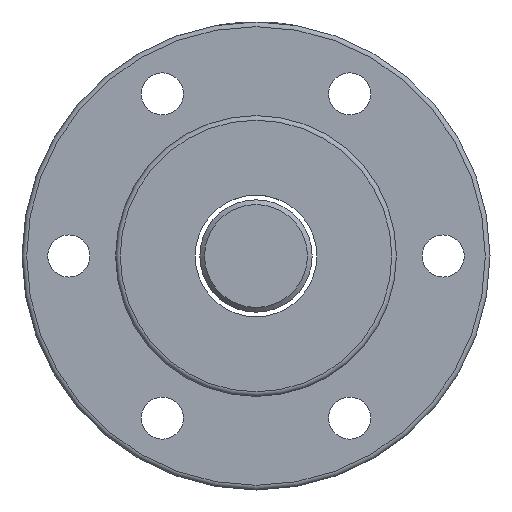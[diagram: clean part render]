
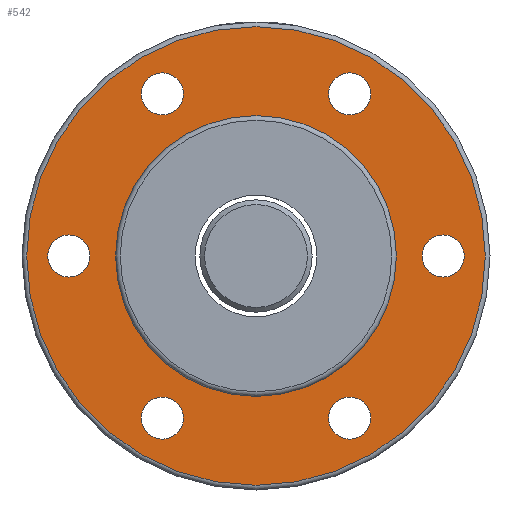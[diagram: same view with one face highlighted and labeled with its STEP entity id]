
A CAD part, left-side view. The second image highlights one B-rep face of the part: STEP entity #542.
In plain terms, the highlighted planar face has unit normal (-1, 0, 0).
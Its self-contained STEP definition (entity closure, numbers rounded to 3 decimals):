
#92=PLANE('',#644);
#156=ORIENTED_EDGE('',*,*,#231,.F.);
#157=ORIENTED_EDGE('',*,*,#239,.T.);
#158=ORIENTED_EDGE('',*,*,#229,.F.);
#159=ORIENTED_EDGE('',*,*,#225,.F.);
#160=ORIENTED_EDGE('',*,*,#221,.F.);
#161=ORIENTED_EDGE('',*,*,#217,.F.);
#162=ORIENTED_EDGE('',*,*,#213,.F.);
#163=ORIENTED_EDGE('',*,*,#209,.F.);
#209=EDGE_CURVE('',#261,#261,#308,.T.);
#213=EDGE_CURVE('',#265,#265,#312,.T.);
#217=EDGE_CURVE('',#269,#269,#316,.T.);
#221=EDGE_CURVE('',#273,#273,#320,.T.);
#225=EDGE_CURVE('',#277,#277,#324,.T.);
#229=EDGE_CURVE('',#281,#281,#328,.T.);
#231=EDGE_CURVE('',#283,#283,#330,.T.);
#239=EDGE_CURVE('',#291,#291,#334,.T.);
#261=VERTEX_POINT('',#854);
#265=VERTEX_POINT('',#865);
#269=VERTEX_POINT('',#876);
#273=VERTEX_POINT('',#887);
#277=VERTEX_POINT('',#898);
#281=VERTEX_POINT('',#909);
#283=VERTEX_POINT('',#914);
#291=VERTEX_POINT('',#952);
#308=CIRCLE('',#597,2.25);
#312=CIRCLE('',#604,2.25);
#316=CIRCLE('',#611,2.25);
#320=CIRCLE('',#618,2.25);
#324=CIRCLE('',#625,2.25);
#328=CIRCLE('',#632,2.25);
#330=CIRCLE('',#635,24.5);
#334=CIRCLE('',#643,15.);
#397=EDGE_LOOP('',(#156));
#398=EDGE_LOOP('',(#157));
#399=EDGE_LOOP('',(#158));
#400=EDGE_LOOP('',(#159));
#401=EDGE_LOOP('',(#160));
#402=EDGE_LOOP('',(#161));
#403=EDGE_LOOP('',(#162));
#404=EDGE_LOOP('',(#163));
#482=FACE_BOUND('',#397,.T.);
#483=FACE_BOUND('',#398,.T.);
#484=FACE_BOUND('',#399,.T.);
#485=FACE_BOUND('',#400,.T.);
#486=FACE_BOUND('',#401,.T.);
#487=FACE_BOUND('',#402,.T.);
#488=FACE_BOUND('',#403,.T.);
#489=FACE_BOUND('',#404,.T.);
#542=ADVANCED_FACE('',(#482,#483,#484,#485,#486,#487,#488,#489),#92,.T.);
#597=AXIS2_PLACEMENT_3D('',#853,#699,#700);
#604=AXIS2_PLACEMENT_3D('',#864,#713,#714);
#611=AXIS2_PLACEMENT_3D('',#875,#727,#728);
#618=AXIS2_PLACEMENT_3D('',#886,#741,#742);
#625=AXIS2_PLACEMENT_3D('',#897,#755,#756);
#632=AXIS2_PLACEMENT_3D('',#908,#769,#770);
#635=AXIS2_PLACEMENT_3D('',#913,#775,#776);
#643=AXIS2_PLACEMENT_3D('',#951,#791,#792);
#644=AXIS2_PLACEMENT_3D('',#953,#793,#794);
#699=DIRECTION('',(-1.,0.,0.));
#700=DIRECTION('',(0.,0.,1.));
#713=DIRECTION('',(-1.,0.,0.));
#714=DIRECTION('',(0.,0.,1.));
#727=DIRECTION('',(-1.,0.,0.));
#728=DIRECTION('',(0.,0.,1.));
#741=DIRECTION('',(-1.,0.,0.));
#742=DIRECTION('',(0.,0.,1.));
#755=DIRECTION('',(-1.,0.,0.));
#756=DIRECTION('',(0.,0.,1.));
#769=DIRECTION('',(-1.,0.,0.));
#770=DIRECTION('',(0.,0.,1.));
#775=DIRECTION('',(1.,0.,0.));
#776=DIRECTION('',(0.,0.,-1.));
#791=DIRECTION('',(1.,0.,0.));
#792=DIRECTION('',(0.,0.,-1.));
#793=DIRECTION('',(-1.,0.,0.));
#794=DIRECTION('',(0.,0.,1.));
#853=CARTESIAN_POINT('',(-23.5,20.,0.));
#854=CARTESIAN_POINT('',(-23.5,20.,2.25));
#864=CARTESIAN_POINT('',(-23.5,-20.,0.));
#865=CARTESIAN_POINT('',(-23.5,-20.,2.25));
#875=CARTESIAN_POINT('',(-23.5,10.,-17.32));
#876=CARTESIAN_POINT('',(-23.5,10.,-15.07));
#886=CARTESIAN_POINT('',(-23.5,-10.,-17.32));
#887=CARTESIAN_POINT('',(-23.5,-10.,-15.07));
#897=CARTESIAN_POINT('',(-23.5,-10.,17.32));
#898=CARTESIAN_POINT('',(-23.5,-10.,19.57));
#908=CARTESIAN_POINT('',(-23.5,10.,17.32));
#909=CARTESIAN_POINT('',(-23.5,10.,19.57));
#913=CARTESIAN_POINT('',(-23.5,0.,0.));
#914=CARTESIAN_POINT('',(-23.5,0.,-24.5));
#951=CARTESIAN_POINT('',(-23.5,0.,0.));
#952=CARTESIAN_POINT('',(-23.5,0.,-15.));
#953=CARTESIAN_POINT('',(-23.5,19.75,0.));
